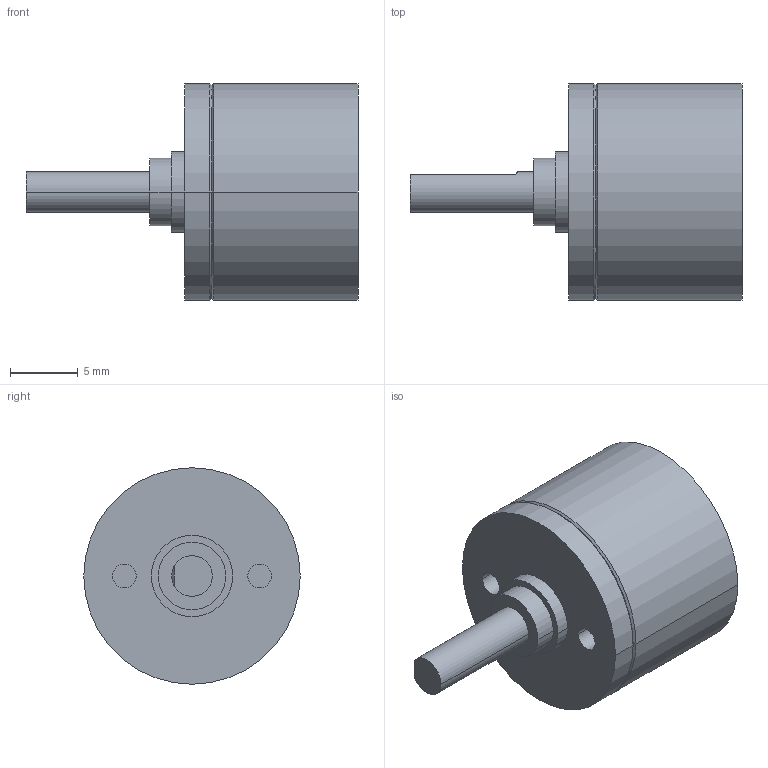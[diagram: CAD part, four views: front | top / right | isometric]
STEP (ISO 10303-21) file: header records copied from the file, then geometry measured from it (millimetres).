
FILE_DESCRIPTION((''),'2;1');
FILE_NAME('1681860','2016-10-04T',('mmagvisi'),(''),'CREO PARAMETRIC BY PTC INC, 2016050','CREO PARAMETRIC BY PTC INC, 2016050','');
FILE_SCHEMA(('CONFIG_CONTROL_DESIGN'));
Length unit declared in the file: millimetre
Products named in the file (1): 1681860
Bounding box: 24.55 x 16 x 16 mm (x, y, z)
Volume: 2473.2 mm3; surface area: 1273.3 mm2
Topology: 1 solids, 1 shells, 30 faces, 60 edges, 38 vertices
Faces by surface type: cylinder 16, plane 10, cone 4
Entity records: 895 total; most frequent: DIRECTION 152, CARTESIAN_POINT 133, ORIENTED_EDGE 120, AXIS2_PLACEMENT_3D 64, EDGE_CURVE 60, COLOUR_RGB 58, VERTEX_POINT 38, EDGE_LOOP 36
